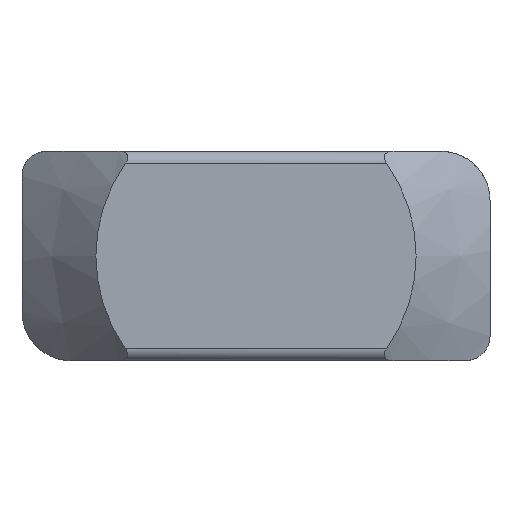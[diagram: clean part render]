
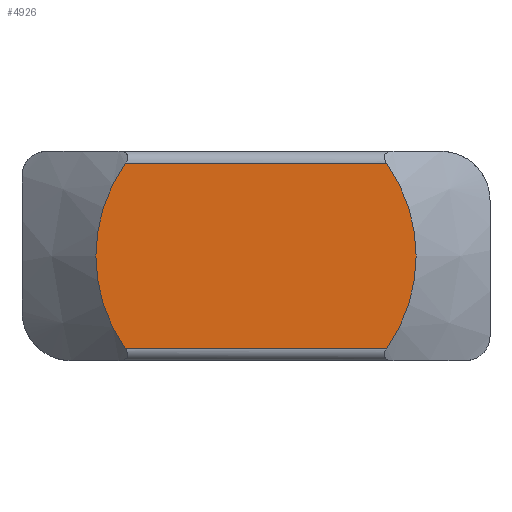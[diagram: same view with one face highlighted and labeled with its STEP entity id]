
A CAD part, front view. The second image highlights one B-rep face of the part: STEP entity #4926.
In plain terms, the highlighted planar face has unit normal (0, -1, 0).
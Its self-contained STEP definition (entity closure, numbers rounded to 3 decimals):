
#220 = AXIS2_PLACEMENT_3D ( 'NONE', #672, #2614, #1911 ) ;
#672 = CARTESIAN_POINT ( 'NONE',  ( 0., 0., 0. ) ) ;
#854 = DIRECTION ( 'NONE',  ( 0., 0., 1. ) ) ;
#867 = EDGE_CURVE ( 'NONE', #6172, #4419, #1319, .T. ) ;
#999 = CIRCLE ( 'NONE', #220, 6.5 ) ;
#1315 = CARTESIAN_POINT ( 'NONE',  ( -5.309, 0., 3.75 ) ) ;
#1319 = LINE ( 'NONE', #6083, #6235 ) ;
#1321 = VERTEX_POINT ( 'NONE', #4607 ) ;
#1555 = DIRECTION ( 'NONE',  ( 0., 1., 0. ) ) ;
#1645 = EDGE_CURVE ( 'NONE', #6172, #1321, #999, .T. ) ;
#1911 = DIRECTION ( 'NONE',  ( 0., 0., 1. ) ) ;
#2267 = CARTESIAN_POINT ( 'NONE',  ( 0., 0., 0. ) ) ;
#2498 = DIRECTION ( 'NONE',  ( 0., 0., 1. ) ) ;
#2614 = DIRECTION ( 'NONE',  ( 0., 1., 0. ) ) ;
#2969 = PLANE ( 'NONE',  #6041 ) ;
#3206 = DIRECTION ( 'NONE',  ( 0., 1., 0. ) ) ;
#3606 = EDGE_LOOP ( 'NONE', ( #5685, #6537, #4985, #4403 ) ) ;
#3767 = DIRECTION ( 'NONE',  ( 1., 0., 0. ) ) ;
#3929 = CARTESIAN_POINT ( 'NONE',  ( 0., 0., 0. ) ) ;
#4403 = ORIENTED_EDGE ( 'NONE', *, *, #867, .T. ) ;
#4419 = VERTEX_POINT ( 'NONE', #1315 ) ;
#4481 = CARTESIAN_POINT ( 'NONE',  ( 0., 0., -3.75 ) ) ;
#4599 = EDGE_CURVE ( 'NONE', #4685, #1321, #5175, .T. ) ;
#4607 = CARTESIAN_POINT ( 'NONE',  ( 5.309, 0., -3.75 ) ) ;
#4685 = VERTEX_POINT ( 'NONE', #5552 ) ;
#4926 = ADVANCED_FACE ( 'NONE', ( #5877 ), #2969, .F. ) ;
#4985 = ORIENTED_EDGE ( 'NONE', *, *, #1645, .F. ) ;
#5175 = LINE ( 'NONE', #4481, #6524 ) ;
#5324 = CARTESIAN_POINT ( 'NONE',  ( 5.309, 0., 3.75 ) ) ;
#5389 = DIRECTION ( 'NONE',  ( -1., 0., 0. ) ) ;
#5552 = CARTESIAN_POINT ( 'NONE',  ( -5.309, 0., -3.75 ) ) ;
#5685 = ORIENTED_EDGE ( 'NONE', *, *, #6208, .F. ) ;
#5877 = FACE_OUTER_BOUND ( 'NONE', #3606, .T. ) ;
#6041 = AXIS2_PLACEMENT_3D ( 'NONE', #2267, #1555, #854 ) ;
#6083 = CARTESIAN_POINT ( 'NONE',  ( 0., 0., 3.75 ) ) ;
#6172 = VERTEX_POINT ( 'NONE', #5324 ) ;
#6208 = EDGE_CURVE ( 'NONE', #4685, #4419, #6487, .T. ) ;
#6235 = VECTOR ( 'NONE', #5389, 1000. ) ;
#6487 = CIRCLE ( 'NONE', #6639, 6.5 ) ;
#6524 = VECTOR ( 'NONE', #3767, 1000. ) ;
#6537 = ORIENTED_EDGE ( 'NONE', *, *, #4599, .T. ) ;
#6639 = AXIS2_PLACEMENT_3D ( 'NONE', #3929, #3206, #2498 ) ;
